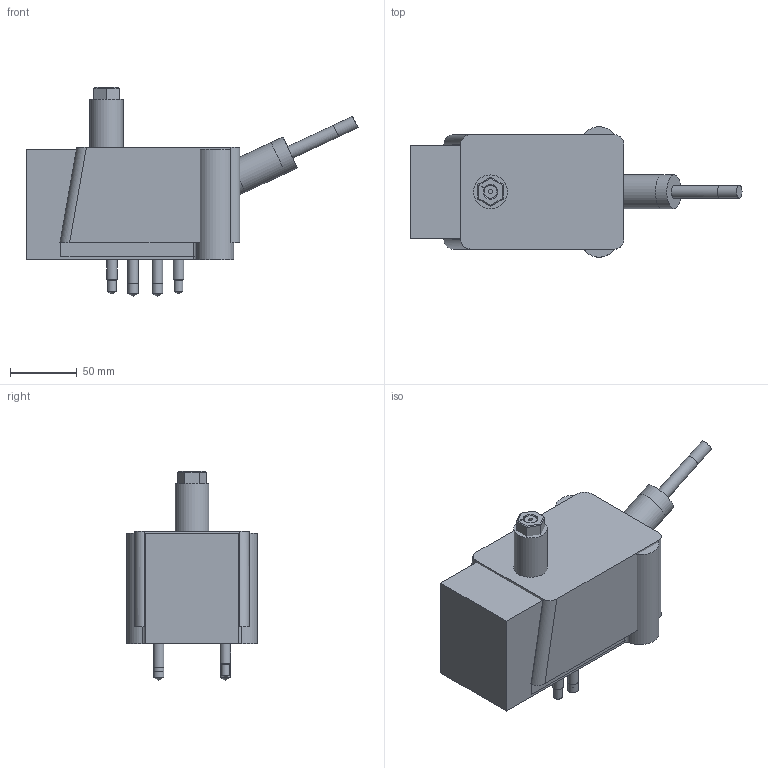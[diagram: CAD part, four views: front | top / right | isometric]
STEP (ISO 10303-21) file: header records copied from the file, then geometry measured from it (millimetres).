
FILE_DESCRIPTION(('STEP AP214'),'1');
FILE_NAME('0011_EZ-25-S_201209.stp','2020-12-14T12:26:33',(' '),(' '),'Spatial InterOp 3D',' ',' ');
FILE_SCHEMA(('AUTOMOTIVE_DESIGN { 1 0 10303 214 1 1 1 1 }'));
Length unit declared in the file: metre
Products named in the file (19): 1607692293; 1562099358; 1562100740; 1580689244; 1580689236; 1580689062; 1580689046; 1580689030; 1580689014; 1580688640; 1580688599; 1580688335; 1580700033; 1580691960; 1580688822; 1580702734; 1580702757; 1583159039; 1
Bounding box: 248.96 x 97.7 x 156.95 mm (x, y, z)
Volume: 2480152.8 mm3; surface area: 231611.3 mm2
Topology: 18 solids, 18 shells, 252 faces, 551 edges, 353 vertices
Faces by surface type: plane 140, cylinder 63, cone 34, torus 9, bspline 4, sphere 2
Full cylindrical faces by diameter (mm): 3.175 x2, 3.797 x1, 4.089 x1, 4.826 x3, 5.159 x1, 6.35 x1, 6.528 x2, 7.938 x11, 8.433 x1, 8.5 x2, 8.731 x1, 9.5 x1, 9.525 x4, 11.906 x2, 12.7 x4, 14.25 x2, 15.875 x1, 25.146 x1, 25.4 x1, 25.527 x1, 26.746 x2, 27 x2, 50.292 x1, 50.8 x1
Entity records: 19005 total; most frequent: CARTESIAN_POINT 11635, DIRECTION 1109, ORIENTED_EDGE 842, AXIS2_PLACEMENT_3D 436, EDGE_CURVE 421, EDGE_LOOP 379, VERTEX_POINT 322, FACE_OUTER_BOUND 310
